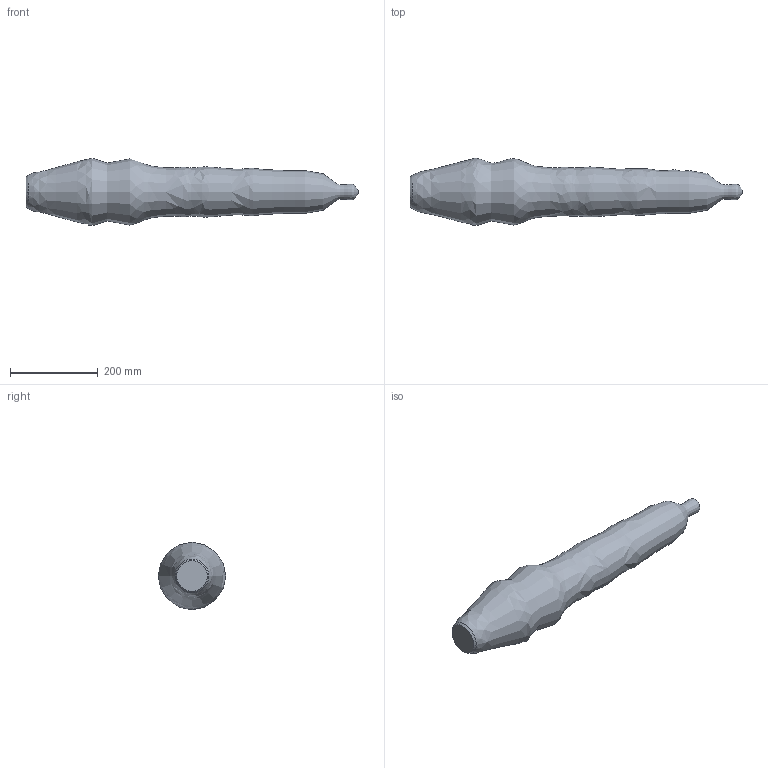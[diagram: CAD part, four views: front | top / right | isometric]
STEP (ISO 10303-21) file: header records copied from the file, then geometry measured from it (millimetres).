
FILE_DESCRIPTION((''),'2;1');
FILE_NAME('C:\Dokumente und Einstellungen\Kramp\Eigene Dateien\Microsonic Nacharbeit 2\restliche Änderungen\STP\Schallfeld Betriebstastw 700mm Rohr.stp','2005-08-11T08:22:59',('Kramp'),(''),'Autodesk Inventor 7','Autodesk Inventor 7','');
FILE_SCHEMA(('AUTOMOTIVE_DESIGN { 1 0 10303 214 1 1 1 1 }'));
Length unit declared in the file: millimetre
Products named in the file (1): Schallfeld Betriebstastw 700mm Rohr
Bounding box: 755 x 153.08 x 153.09 mm (x, y, z)
Volume: 7236077.3 mm3; surface area: 264529.2 mm2
Topology: 1 solids, 1 shells, 5 faces, 8 edges, 5 vertices
Faces by surface type: cone 2, plane 2, bspline 1
Entity records: 604 total; most frequent: CARTESIAN_POINT 487, DIRECTION 22, ORIENTED_EDGE 16, AXIS2_PLACEMENT_3D 10, EDGE_CURVE 8, VERTEX_POINT 5, CIRCLE 5, EDGE_LOOP 5
